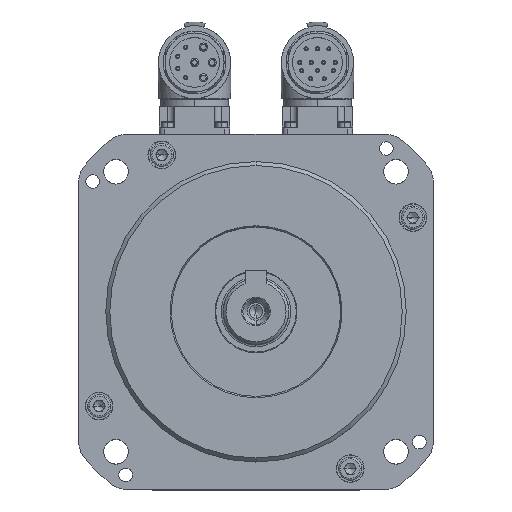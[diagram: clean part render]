
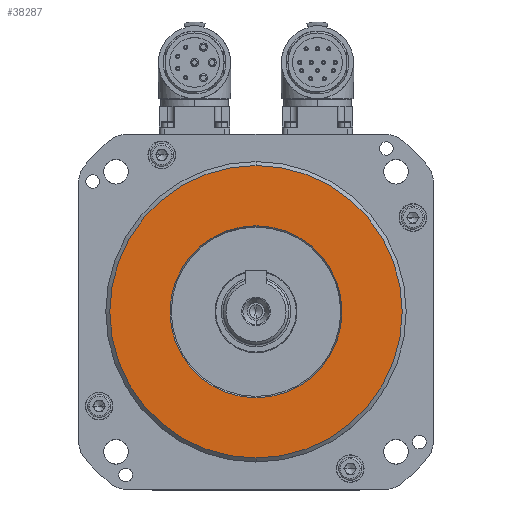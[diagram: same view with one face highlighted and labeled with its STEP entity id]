
A CAD part, top view. The second image highlights one B-rep face of the part: STEP entity #38287.
In plain terms, the highlighted planar face has unit normal (0, 0, 1).
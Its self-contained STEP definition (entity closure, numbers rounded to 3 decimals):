
#903 = CARTESIAN_POINT ( 'NONE',  ( 0., 0., 66.8 ) ) ;
#2631 = EDGE_CURVE ( 'NONE', #54431, #23663, #8736, .T. ) ;
#4651 = CIRCLE ( 'NONE', #17505, 31.481 ) ;
#5508 = ORIENTED_EDGE ( 'NONE', *, *, #2631, .T. ) ;
#6188 = CARTESIAN_POINT ( 'NONE',  ( 0., 0., 66.8 ) ) ;
#6397 = DIRECTION ( 'NONE',  ( 0., 0., 1. ) ) ;
#7930 = CARTESIAN_POINT ( 'NONE',  ( 0., 0., 66.8 ) ) ;
#8104 = FACE_OUTER_BOUND ( 'NONE', #53662, .T. ) ;
#8736 = CIRCLE ( 'NONE', #41321, 53.54 ) ;
#11923 = DIRECTION ( 'NONE',  ( 0., -1., 0. ) ) ;
#13605 = EDGE_CURVE ( 'NONE', #23663, #54431, #60899, .T. ) ;
#15431 = DIRECTION ( 'NONE',  ( 0., -1., 0. ) ) ;
#16377 = FACE_BOUND ( 'NONE', #23526, .T. ) ;
#17505 = AXIS2_PLACEMENT_3D ( 'NONE', #903, #6397, #15431 ) ;
#19134 = VERTEX_POINT ( 'NONE', #38086 ) ;
#20830 = DIRECTION ( 'NONE',  ( 0., 0., 1. ) ) ;
#23526 = EDGE_LOOP ( 'NONE', ( #59444, #59451 ) ) ;
#23663 = VERTEX_POINT ( 'NONE', #45078 ) ;
#23696 = CIRCLE ( 'NONE', #39989, 31.481 ) ;
#24193 = CARTESIAN_POINT ( 'NONE',  ( 0., 31.481, 66.8 ) ) ;
#27812 = DIRECTION ( 'NONE',  ( 0., -1., 0. ) ) ;
#27894 = CARTESIAN_POINT ( 'NONE',  ( 0., -53.54, 66.8 ) ) ;
#29502 = DIRECTION ( 'NONE',  ( 0., -1., 0. ) ) ;
#29773 = VERTEX_POINT ( 'NONE', #24193 ) ;
#34953 = PLANE ( 'NONE',  #42130 ) ;
#35235 = CARTESIAN_POINT ( 'NONE',  ( 0., 0., 66.8 ) ) ;
#38086 = CARTESIAN_POINT ( 'NONE',  ( 0., -31.481, 66.8 ) ) ;
#38287 = ADVANCED_FACE ( 'NONE', ( #16377, #8104 ), #34953, .T. ) ;
#39989 = AXIS2_PLACEMENT_3D ( 'NONE', #35235, #20830, #11923 ) ;
#41321 = AXIS2_PLACEMENT_3D ( 'NONE', #46950, #51854, #27812 ) ;
#42130 = AXIS2_PLACEMENT_3D ( 'NONE', #6188, #49534, #29502 ) ;
#45078 = CARTESIAN_POINT ( 'NONE',  ( 0., 53.54, 66.8 ) ) ;
#46950 = CARTESIAN_POINT ( 'NONE',  ( 0., 0., 66.8 ) ) ;
#49534 = DIRECTION ( 'NONE',  ( 0., 0., 1. ) ) ;
#50872 = DIRECTION ( 'NONE',  ( 0., 0., 1. ) ) ;
#51854 = DIRECTION ( 'NONE',  ( 0., 0., 1. ) ) ;
#53662 = EDGE_LOOP ( 'NONE', ( #54693, #5508 ) ) ;
#54417 = AXIS2_PLACEMENT_3D ( 'NONE', #7930, #50872, #60154 ) ;
#54431 = VERTEX_POINT ( 'NONE', #27894 ) ;
#54693 = ORIENTED_EDGE ( 'NONE', *, *, #13605, .T. ) ;
#59444 = ORIENTED_EDGE ( 'NONE', *, *, #59547, .F. ) ;
#59451 = ORIENTED_EDGE ( 'NONE', *, *, #61370, .F. ) ;
#59547 = EDGE_CURVE ( 'NONE', #29773, #19134, #23696, .T. ) ;
#60154 = DIRECTION ( 'NONE',  ( 0., -1., 0. ) ) ;
#60899 = CIRCLE ( 'NONE', #54417, 53.54 ) ;
#61370 = EDGE_CURVE ( 'NONE', #19134, #29773, #4651, .T. ) ;
